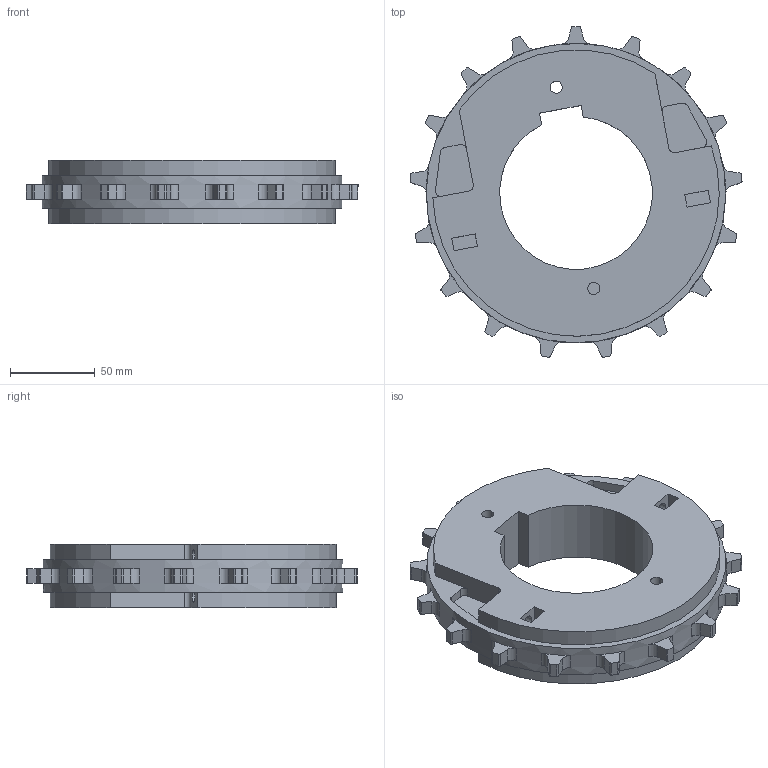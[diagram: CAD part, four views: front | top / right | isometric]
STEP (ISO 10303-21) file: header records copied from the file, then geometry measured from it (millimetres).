
FILE_DESCRIPTION((''),'2;1');
FILE_NAME('S1200_SPLIT_79X35_90_RND','2008-12-12T',('jmumphre'),(''),'PRO/ENGINEER BY PARAMETRIC TECHNOLOGY CORPORATION, 2008150','PRO/ENGINEER BY PARAMETRIC TECHNOLOGY CORPORATION, 2008150','');
FILE_SCHEMA(('CONFIG_CONTROL_DESIGN'));
Length unit declared in the file: inch
Products named in the file (1): S1200_SPLIT_79X35_90_RND
Bounding box: 195.7 x 194.88 x 37.59 mm (x, y, z)
Volume: 595946.2 mm3; surface area: 80388.1 mm2
Topology: 1 solids, 1 shells, 236 faces, 630 edges, 420 vertices
Faces by surface type: plane 133, cylinder 103
Entity records: 7498 total; most frequent: DIRECTION 1342, CARTESIAN_POINT 1286, ORIENTED_EDGE 1260, EDGE_CURVE 630, AXIS2_PLACEMENT_3D 476, VERTEX_POINT 420, VECTOR 390, LINE 390
